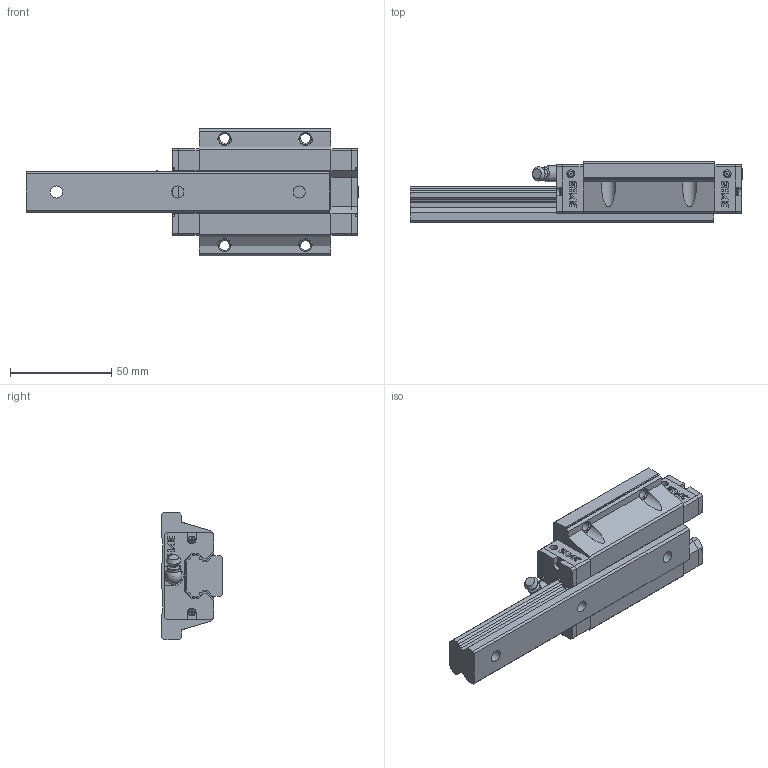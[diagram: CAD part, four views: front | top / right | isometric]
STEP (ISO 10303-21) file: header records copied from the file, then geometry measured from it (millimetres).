
FILE_DESCRIPTION( ( 'STEP AP214' ), '1' );
FILE_NAME( 'F:/品牌/SHAC 台湾鼎翰传动科技有限公司/3D滑块/GHW20HA1R150Z0C-15_15_1_1_.stp', '2025-04-21T22:46:25', ( 'License CC BY-ND 4.0' ), ( 'CADENAS' ), ' ', 'PARTsolutions', ' ' );
FILE_SCHEMA( ( 'AUTOMOTIVE_DESIGN { 1 0 10303 214 1 1 1 1 }' ) );
Length unit declared in the file: millimetre
Products named in the file (8): GHW20HA1R150Z0C-15/15(1_1); _GHR20R150C+RC-15/15(1)_RAIL; _GHW20HA_SLIDER; _GHW20HA_C; _GHW20HA_P; _GH20_SCREW; _GH20_BOLT; _GH20-_G
Assembly tree (12 placements, depth 2):
  GHW20HA1R150Z0C-15/15(1_1)
    _GHR20R150C+RC-15/15(1)_RAIL
    _GHW20HA_SLIDER
    _GHW20HA_C  x2
    _GHW20HA_P  x2
    _GH20_SCREW  x4
    _GH20_BOLT
    _GH20-_G
Bounding box: 164.04 x 30 x 63 mm (x, y, z)
Volume: 139383.3 mm3; surface area: 40775.7 mm2
Topology: 12 solids, 12 shells, 779 faces, 2085 edges, 1379 vertices
Faces by surface type: plane 628, cylinder 111, cone 24, torus 10, sphere 5, bspline 1
Full cylindrical faces by diameter (mm): 0.53 x4, 3 x4, 3.414 x4, 3.93 x6, 4.5 x1, 4.917 x4, 6 x7, 8 x1, 8.2 x1, 9.5 x3
Entity records: 18273 total; most frequent: CARTESIAN_POINT 2693, ORIENTED_EDGE 2402, DIRECTION 2320, EDGE_CURVE 1201, LINE 986, VECTOR 986, VERTEX_POINT 820, AXIS2_PLACEMENT_3D 667
